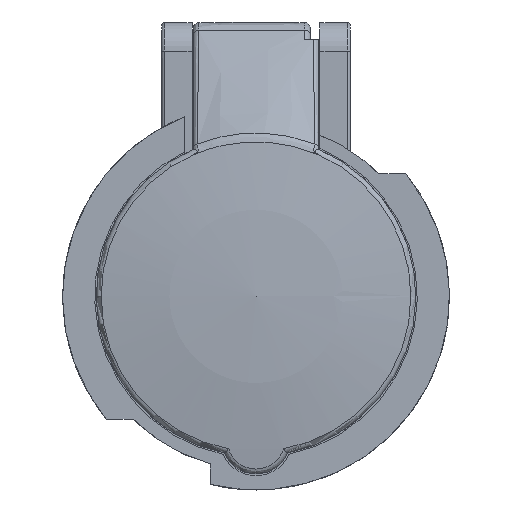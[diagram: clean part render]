
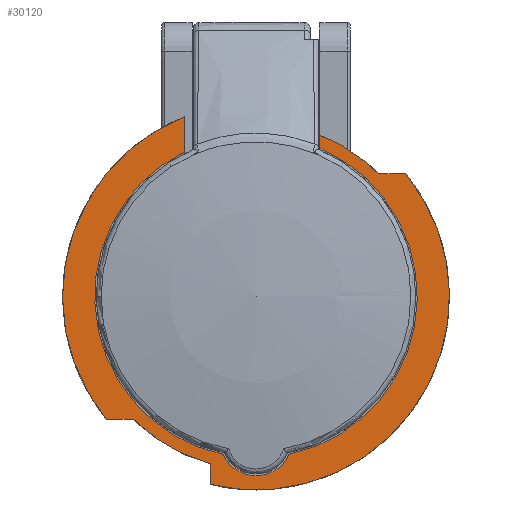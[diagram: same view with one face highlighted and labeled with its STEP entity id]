
A CAD part, top view. The second image highlights one B-rep face of the part: STEP entity #30120.
In plain terms, the highlighted planar face has unit normal (0, 0, 1).
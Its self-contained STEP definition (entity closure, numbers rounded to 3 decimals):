
#29026 = VERTEX_POINT('',#29027);
#29027 = CARTESIAN_POINT('',(5.758,-27.657,41.));
#29033 = EDGE_CURVE('',#29034,#29026,#29036,.T.);
#29034 = VERTEX_POINT('',#29035);
#29035 = CARTESIAN_POINT('',(11.2,25.935,41.));
#29036 = CIRCLE('',#29037,28.25);
#29037 = AXIS2_PLACEMENT_3D('',#29038,#29039,#29040);
#29038 = CARTESIAN_POINT('',(0.,0.,41.));
#29039 = DIRECTION('',(0.,0.,-1.));
#29040 = DIRECTION('',(0.396,0.918,0.));
#29066 = VERTEX_POINT('',#29067);
#29067 = CARTESIAN_POINT('',(-5.758,-27.657,41.));
#29073 = EDGE_CURVE('',#29066,#29026,#29074,.T.);
#29074 = CIRCLE('',#29075,6.3);
#29075 = AXIS2_PLACEMENT_3D('',#29076,#29077,#29078);
#29076 = CARTESIAN_POINT('',(0.,-25.1,41.));
#29077 = DIRECTION('',(0.,0.,1.));
#29078 = DIRECTION('',(-0.914,-0.406,0.));
#29099 = VERTEX_POINT('',#29100);
#29100 = CARTESIAN_POINT('',(-12.5,25.334,41.));
#29106 = EDGE_CURVE('',#29066,#29099,#29107,.T.);
#29107 = CIRCLE('',#29108,28.25);
#29108 = AXIS2_PLACEMENT_3D('',#29109,#29110,#29111);
#29109 = CARTESIAN_POINT('',(0.,0.,41.));
#29110 = DIRECTION('',(0.,0.,-1.));
#29111 = DIRECTION('',(-0.204,-0.979,-0.));
#29184 = VERTEX_POINT('',#29185);
#29185 = CARTESIAN_POINT('',(-12.5,31.511,41.));
#29191 = EDGE_CURVE('',#29099,#29184,#29192,.T.);
#29192 = LINE('',#29193,#29194);
#29193 = CARTESIAN_POINT('',(-12.5,25.334,41.));
#29194 = VECTOR('',#29195,1.);
#29195 = DIRECTION('',(0.,1.,0.));
#29725 = VERTEX_POINT('',#29726);
#29726 = CARTESIAN_POINT('',(11.2,26.3,41.));
#29913 = EDGE_CURVE('',#29725,#29034,#29914,.T.);
#29914 = LINE('',#29915,#29916);
#29915 = CARTESIAN_POINT('',(11.2,26.3,41.));
#29916 = VECTOR('',#29917,1.);
#29917 = DIRECTION('',(0.,-1.,0.));
#30120 = ADVANCED_FACE('',(#30121),#30194,.F.);
#30121 = FACE_BOUND('',#30122,.T.);
#30122 = EDGE_LOOP('',(#30123,#30124,#30125,#30134,#30142,#30151,#30159,
    #30168,#30176,#30185,#30191,#30192,#30193));
#30123 = ORIENTED_EDGE('',*,*,#29106,.T.);
#30124 = ORIENTED_EDGE('',*,*,#29191,.T.);
#30125 = ORIENTED_EDGE('',*,*,#30126,.T.);
#30126 = EDGE_CURVE('',#29184,#30127,#30129,.T.);
#30127 = VERTEX_POINT('',#30128);
#30128 = CARTESIAN_POINT('',(-26.21,-21.5,41.));
#30129 = CIRCLE('',#30130,33.9);
#30130 = AXIS2_PLACEMENT_3D('',#30131,#30132,#30133);
#30131 = CARTESIAN_POINT('',(0.,0.,41.));
#30132 = DIRECTION('',(0.,0.,1.));
#30133 = DIRECTION('',(-0.369,0.93,0.));
#30134 = ORIENTED_EDGE('',*,*,#30135,.T.);
#30135 = EDGE_CURVE('',#30127,#30136,#30138,.T.);
#30136 = VERTEX_POINT('',#30137);
#30137 = CARTESIAN_POINT('',(-21.492,-21.5,41.));
#30138 = LINE('',#30139,#30140);
#30139 = CARTESIAN_POINT('',(-26.21,-21.5,41.));
#30140 = VECTOR('',#30141,1.);
#30141 = DIRECTION('',(1.,0.,0.));
#30142 = ORIENTED_EDGE('',*,*,#30143,.T.);
#30143 = EDGE_CURVE('',#30136,#30144,#30146,.T.);
#30144 = VERTEX_POINT('',#30145);
#30145 = CARTESIAN_POINT('',(-8.,-29.328,41.));
#30146 = CIRCLE('',#30147,30.4);
#30147 = AXIS2_PLACEMENT_3D('',#30148,#30149,#30150);
#30148 = CARTESIAN_POINT('',(0.,0.,41.));
#30149 = DIRECTION('',(0.,0.,1.));
#30150 = DIRECTION('',(-0.707,-0.707,0.));
#30151 = ORIENTED_EDGE('',*,*,#30152,.F.);
#30152 = EDGE_CURVE('',#30153,#30144,#30155,.T.);
#30153 = VERTEX_POINT('',#30154);
#30154 = CARTESIAN_POINT('',(-8.,-32.943,41.));
#30155 = LINE('',#30156,#30157);
#30156 = CARTESIAN_POINT('',(-8.,-32.943,41.));
#30157 = VECTOR('',#30158,1.);
#30158 = DIRECTION('',(0.,1.,0.));
#30159 = ORIENTED_EDGE('',*,*,#30160,.T.);
#30160 = EDGE_CURVE('',#30153,#30161,#30163,.T.);
#30161 = VERTEX_POINT('',#30162);
#30162 = CARTESIAN_POINT('',(26.21,21.5,41.));
#30163 = CIRCLE('',#30164,33.9);
#30164 = AXIS2_PLACEMENT_3D('',#30165,#30166,#30167);
#30165 = CARTESIAN_POINT('',(0.,0.,41.));
#30166 = DIRECTION('',(0.,0.,1.));
#30167 = DIRECTION('',(-0.236,-0.972,0.));
#30168 = ORIENTED_EDGE('',*,*,#30169,.T.);
#30169 = EDGE_CURVE('',#30161,#30170,#30172,.T.);
#30170 = VERTEX_POINT('',#30171);
#30171 = CARTESIAN_POINT('',(21.492,21.5,41.));
#30172 = LINE('',#30173,#30174);
#30173 = CARTESIAN_POINT('',(26.21,21.5,41.));
#30174 = VECTOR('',#30175,1.);
#30175 = DIRECTION('',(-1.,0.,0.));
#30176 = ORIENTED_EDGE('',*,*,#30177,.T.);
#30177 = EDGE_CURVE('',#30170,#30178,#30180,.T.);
#30178 = VERTEX_POINT('',#30179);
#30179 = CARTESIAN_POINT('',(11.2,28.262,41.));
#30180 = CIRCLE('',#30181,30.4);
#30181 = AXIS2_PLACEMENT_3D('',#30182,#30183,#30184);
#30182 = CARTESIAN_POINT('',(0.,0.,41.));
#30183 = DIRECTION('',(0.,0.,1.));
#30184 = DIRECTION('',(0.707,0.707,-0.));
#30185 = ORIENTED_EDGE('',*,*,#30186,.T.);
#30186 = EDGE_CURVE('',#30178,#29725,#30187,.T.);
#30187 = LINE('',#30188,#30189);
#30188 = CARTESIAN_POINT('',(11.2,28.262,41.));
#30189 = VECTOR('',#30190,1.);
#30190 = DIRECTION('',(0.,-1.,0.));
#30191 = ORIENTED_EDGE('',*,*,#29913,.T.);
#30192 = ORIENTED_EDGE('',*,*,#29033,.T.);
#30193 = ORIENTED_EDGE('',*,*,#29073,.F.);
#30194 = PLANE('',#30195);
#30195 = AXIS2_PLACEMENT_3D('',#30196,#30197,#30198);
#30196 = CARTESIAN_POINT('',(0.,0.,41.));
#30197 = DIRECTION('',(0.,0.,-1.));
#30198 = DIRECTION('',(0.,1.,0.));
